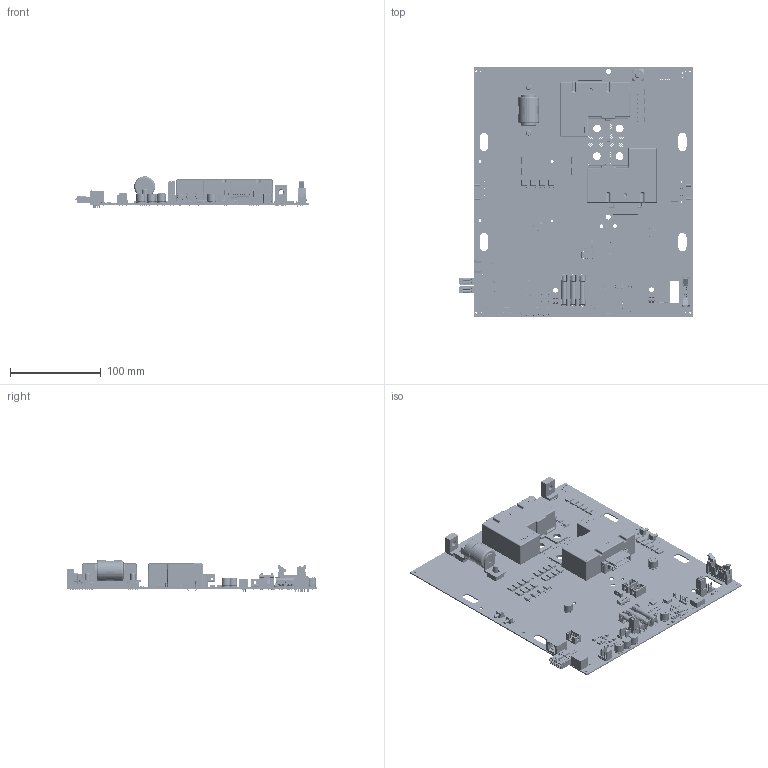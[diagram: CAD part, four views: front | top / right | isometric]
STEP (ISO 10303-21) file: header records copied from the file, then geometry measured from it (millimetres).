
FILE_DESCRIPTION(('KiCad electronic assembly'),'2;1');
FILE_NAME('PowerPro.step','2026-01-18T16:58:14',('Pcbnew'),('Kicad'), 'Open CASCADE STEP processor 7.9','KiCad to STEP converter','Unknown' );
FILE_SCHEMA(('AUTOMOTIVE_DESIGN { 1 0 10303 214 1 1 1 1 }'));
Length unit declared in the file: millimetre
Products named in the file (60): PowerPro 1; SO-4_4.4x4.3mm_P2.54mm; D_SMC; R_0603_1608Metric; FanPinHeader_1x04_P2.54mm_Vertical; C_0603_1608Metric; C_1210_3225Metric; IDC-Header_2x03_P2.54mm_Vertical; SW_Tactile_SPST_Angled_PTS645Vx83-2LFS; LED_0603_1608Metric; HSOP-8-1EP_3.9x4.9mm_P1.27mm_EP2.41x3.1mm; SOT-23; PhoenixContact_MCV_1,5_2-G-3.5_1x02_P3.50mm_Vertical; PhoenixContact_MC_1,5_2-G-3.5_1x02_P3.50mm_Horizontal; Molex_KK-254_AE-6410-04A_1x04_P2.54mm_Vertical; 61201022021; 10; 6120xx22x21_LEVIER_COURT; 6120xx21621_PIN; SW_DIP_SPSTx05_Slide_6.7x14.26mm_W7.62mm_P2.54mm_LowProfile; Download_STEP_691304100002 (rev1); 691304100002; 691304100002_Bas; 6913041000xx_Levier; 6913041000xx_Pin; 6913041000xx_Lamelle; TO-252-2; PowerPro 1.40.1; CP_Radial_D10.0mm_P5.00mm; 7461098; Download_STP_WE-LQFS-4818 (rev1); 4818_74406042_Housing; 4818_74406042; 4818_74406042_Pads; Glue L; Glue R; User Library-Clips LF-102071 with fuse 6_3x32; LF 102071; 6,3x32; 852B-R1A-D012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
Assembly tree (244 placements, depth 3):
  PowerPro 1
    SO-4_4.4x4.3mm_P2.54mm  x2
    D_SMC  x32
    R_0603_1608Metric  x50
    FanPinHeader_1x04_P2.54mm_Vertical
    C_0603_1608Metric  x19
    C_1210_3225Metric  x14
    IDC-Header_2x03_P2.54mm_Vertical  x3
    SW_Tactile_SPST_Angled_PTS645Vx83-2LFS  x4
    LED_0603_1608Metric  x4
    HSOP-8-1EP_3.9x4.9mm_P1.27mm_EP2.41x3.1mm
    SOT-23  x14
    PhoenixContact_MCV_1,5_2-G-3.5_1x02_P3.50mm_Vertical  x2
    PhoenixContact_MC_1,5_2-G-3.5_1x02_P3.50mm_Horizontal  x2
    Molex_KK-254_AE-6410-04A_1x04_P2.54mm_Vertical  x4
    61201022021
      10
      6120xx22x21_LEVIER_COURT  x2
      6120xx21621_PIN  x10
    SW_DIP_SPSTx05_Slide_6.7x14.26mm_W7.62mm_P2.54mm_LowProfile
    Download_STEP_691304100002 (rev1)  x4
      691304100002
      691304100002_Bas
      6913041000xx_Levier
      6913041000xx_Pin
      6913041000xx_Lamelle
    TO-252-2  x8
      PowerPro 1.40.1
    CP_Radial_D10.0mm_P5.00mm  x6
    7461098  x3
    Download_STP_WE-LQFS-4818 (rev1)
      4818_74406042_Housing
      4818_74406042
      4818_74406042
      4818_74406042_Pads  x2
      Glue L
      Glue R
    User Library-Clips LF-102071 with fuse 6_3x32  x3
      LF 102071
      6,3x32
    852B-R1A-D012  x2
    LQFP-32_7x7mm_P0.8mm
    ws-sltv_450301014042 (rev1)
      cover
      slide
    74622106  x2
    MD-60SGK
      Body
      Leads  x9
    RJ45_Amphenol_RJHSE538X
    Nexperia_CFP3_SOD-123W  x3
      PowerPro 1.120.1
    PinHeader_2x05_P1.27mm_Vertical_SMD
    PinHeader_1x04_P2.54mm_Vertical
    AB1xxxx100
    CMI-1265-88-SMT-TR
    Nidec_Copal_SH-7010B
    SW_SPST_Omron_B3FS-100xP
    SOIC-8_3.9x4.9mm_P1.27mm  x2
    powerPro_PCB
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Bounding box: 256.95 x 275.04 x 34.5 mm (x, y, z)
Volume: 228580.9 mm3; surface area: 321277.8 mm2
Topology: 444 solids, 453 shells, 35816 faces, 89426 edges, 53848 vertices
Faces by surface type: plane 16329, cylinder 11631, bspline 4337, torus 1775, sphere 1400, cone 250, revolution 68, extrusion 26
Full cylindrical faces by diameter (mm): 0.1 x14, 0.3 x6, 0.5 x1036, 0.6 x3, 0.7 x66, 0.8 x29, 0.89 x12, 0.99 x8, 1 x92, 1.02 x4, 1.1 x7, 1.19 x16, 1.2 x25, 1.3 x8, 1.4 x2, 1.45 x125, 1.57 x2, 1.9 x1, 1.98 x12, 2.109 x27, 2.2 x4, 2.5 x16, 3 x1, 3.14 x4, 3.2 x5, 3.25 x4, 3.3 x1, 3.5 x4, 4 x2, 4.917 x2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
Entity records: 578910 total; most frequent: CARTESIAN_POINT 124240, ORIENTED_EDGE 75276, DIRECTION 73554, EDGE_CURVE 37633, AXIS2_PLACEMENT_3D 25775, VERTEX_POINT 23133, VECTOR 21978, LINE 21952
